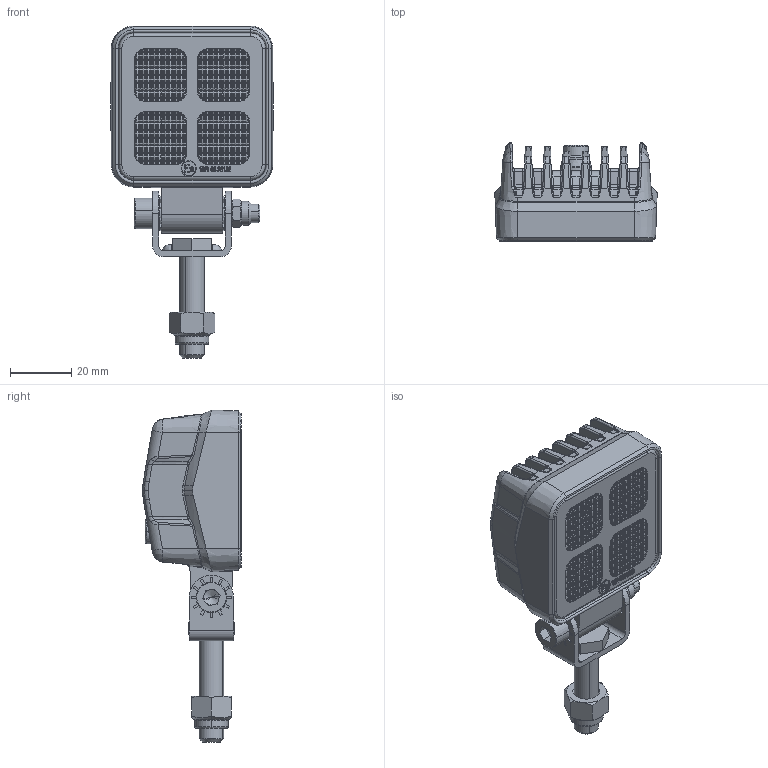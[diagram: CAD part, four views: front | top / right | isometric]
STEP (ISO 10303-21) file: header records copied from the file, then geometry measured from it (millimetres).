
FILE_DESCRIPTION((''),'2;1');
FILE_NAME('10912____ASM_ASM','2023-03-01T',('Administrator'),(''),'CREO PARAMETRIC BY PTC INC, 2018070','CREO PARAMETRIC BY PTC INC, 2018070','');
FILE_SCHEMA(('CONFIG_CONTROL_DESIGN'));
Products named in the file (13): 10912綴_178; M6X35埴翐芛囀鞠_7; 2_22_202_0069-1310_1410U___1_0_; HEXAGON_HEAD_THREAD_FORMI-34974; PREVAILING_TORQUE_TYPE_STYLE_1_; HEX_NUTS__STYLE_2-GRADES_AB_GB_; 盓殤_A_15_ASM; ァ躇俶馱眙_3; XINWEICAO_3; PRODUCT_4957_25_8_75; 腑啣樓醱_12_ASM; 10912_______ASM_175_ASM; 10912____ASM_ASM
Assembly tree (12 placements, depth 4):
  10912____ASM_ASM
    10912_______ASM_175_ASM
      10912綴_178
      盓殤_A_15_ASM
        M6X35埴翐芛囀鞠_7
        2_22_202_0069-1310_1410U___1_0_
        HEXAGON_HEAD_THREAD_FORMI-34974
        PREVAILING_TORQUE_TYPE_STYLE_1_
        HEX_NUTS__STYLE_2-GRADES_AB_GB_
      ァ躇俶馱眙_3
      XINWEICAO_3
      腑啣樓醱_12_ASM
        PRODUCT_4957_25_8_75
Bounding box: 53.04 x 32.27 x 108.45 mm (x, y, z)
Volume: 53607.6 mm3; surface area: 35890.8 mm2
Topology: 9 solids, 9 shells, 4813 faces, 11044 edges, 6372 vertices
Faces by surface type: bspline 3046, plane 1056, cylinder 395, cone 169, torus 126, revolution 16, sphere 4, extrusion 1
Entity records: 320953 total; most frequent: CARTESIAN_POINT 237746, ORIENTED_EDGE 22060, EDGE_CURVE 11030, DIRECTION 8865, B_SPLINE_CURVE_WITH_KNOTS 6903, VERTEX_POINT 6372, EDGE_LOOP 4968, FACE_OUTER_BOUND 4813
